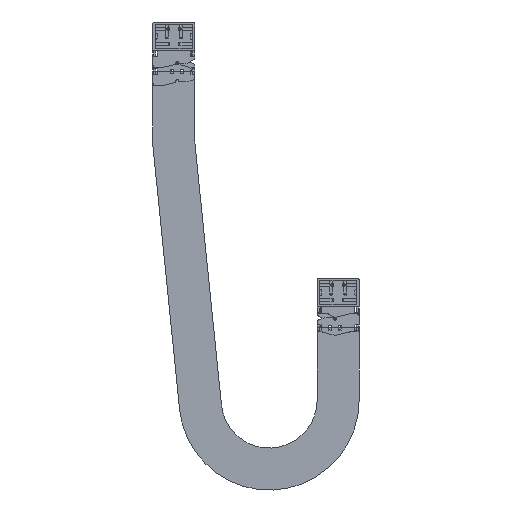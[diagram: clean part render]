
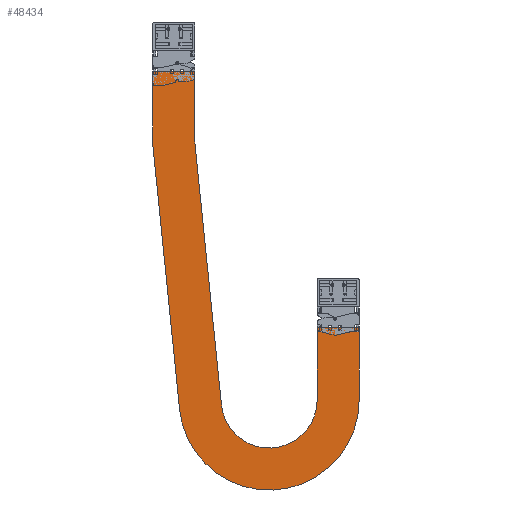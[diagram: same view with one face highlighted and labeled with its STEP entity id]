
A CAD part, left-side view. The second image highlights one B-rep face of the part: STEP entity #48434.
In plain terms, the highlighted planar face has unit normal (-1, 0, 0).
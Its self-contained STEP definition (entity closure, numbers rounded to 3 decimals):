
#47044=DIRECTION('',(0.,1.,0.));
#47045=VECTOR('',#47044,64.);
#47046=CARTESIAN_POINT('',(-35.,250.,0.));
#47047=LINE('',#47046,#47045);
#47257=DIRECTION('',(0.,-1.,0.));
#47258=VECTOR('',#47257,64.);
#47259=CARTESIAN_POINT('',(-35.,64.,-390.));
#47260=LINE('',#47259,#47258);
#47544=DIRECTION('',(0.,0.,-1.));
#47545=VECTOR('',#47544,111.868);
#47546=CARTESIAN_POINT('',(-35.,314.,0.));
#47547=LINE('',#47546,#47545);
#47551=DIRECTION('',(0.,0.,-1.));
#47552=VECTOR('',#47551,108.637);
#47553=CARTESIAN_POINT('',(-35.,250.,0.));
#47554=LINE('',#47553,#47552);
#47558=DIRECTION('',(0.,-0.101,-0.995));
#47559=VECTOR('',#47558,400.756);
#47560=CARTESIAN_POINT('',(-35.,250.,-108.637));
#47561=LINE('',#47560,#47559);
#47565=CARTESIAN_POINT('',(-35.,137.,-500.));
#47566=DIRECTION('',(-1.,0.,0.));
#47567=DIRECTION('',(0.,0.995,-0.101));
#47568=AXIS2_PLACEMENT_3D('',#47565,#47566,#47567);
#47573=DIRECTION('',(0.,0.,1.));
#47574=VECTOR('',#47573,110.);
#47575=CARTESIAN_POINT('',(-35.,64.,-500.));
#47576=LINE('',#47575,#47574);
#47587=DIRECTION('',(0.,0.,1.));
#47588=VECTOR('',#47587,110.);
#47589=CARTESIAN_POINT('',(-35.,0.,-500.));
#47590=LINE('',#47589,#47588);
#47601=CARTESIAN_POINT('',(-35.,137.,-500.));
#47602=DIRECTION('',(-1.,0.,0.));
#47603=DIRECTION('',(0.,0.995,-0.101));
#47604=AXIS2_PLACEMENT_3D('',#47601,#47602,#47603);
#47616=DIRECTION('',(0.,-0.101,-0.995));
#47617=VECTOR('',#47616,403.988);
#47618=CARTESIAN_POINT('',(-35.,314.,-111.868));
#47619=LINE('',#47618,#47617);
#47640=CARTESIAN_POINT('',(-35.,250.,0.));
#47642=VERTEX_POINT('',#47640);
#47643=CARTESIAN_POINT('',(-35.,314.,0.));
#47644=VERTEX_POINT('',#47643);
#47664=CARTESIAN_POINT('',(-35.,250.,-108.637));
#47666=VERTEX_POINT('',#47664);
#47667=CARTESIAN_POINT('',(-35.,314.,-111.868));
#47669=VERTEX_POINT('',#47667);
#47688=CARTESIAN_POINT('',(-35.,209.629,-507.354));
#47690=VERTEX_POINT('',#47688);
#47691=CARTESIAN_POINT('',(-35.,273.303,-513.801));
#47693=VERTEX_POINT('',#47691);
#47712=CARTESIAN_POINT('',(-35.,64.,-500.));
#47714=VERTEX_POINT('',#47712);
#47715=CARTESIAN_POINT('',(-35.,0.,-500.));
#47717=VERTEX_POINT('',#47715);
#47736=CARTESIAN_POINT('',(-35.,64.,-390.));
#47738=VERTEX_POINT('',#47736);
#47739=CARTESIAN_POINT('',(-35.,0.,-390.));
#47740=VERTEX_POINT('',#47739);
#48414=CARTESIAN_POINT('',(-35.,250.,0.));
#48415=DIRECTION('',(-1.,0.,0.));
#48416=DIRECTION('',(0.,1.,0.));
#48417=AXIS2_PLACEMENT_3D('',#48414,#48415,#48416);
#48418=PLANE('',#48417);
#48419=ORIENTED_EDGE('',*,*,#47750,.F.);
#48420=ORIENTED_EDGE('',*,*,#48352,.T.);
#48421=ORIENTED_EDGE('',*,*,#48331,.T.);
#48422=ORIENTED_EDGE('',*,*,#48309,.T.);
#48423=ORIENTED_EDGE('',*,*,#48287,.T.);
#48424=ORIENTED_EDGE('',*,*,#47965,.T.);
#48426=ORIENTED_EDGE('',*,*,#48425,.F.);
#48428=ORIENTED_EDGE('',*,*,#48427,.F.);
#48430=ORIENTED_EDGE('',*,*,#48429,.F.);
#48431=ORIENTED_EDGE('',*,*,#48399,.F.);
#48432=EDGE_LOOP('',(#48419,#48420,#48421,#48422,#48423,#48424,#48426,#48428,
#48430,#48431));
#48433=FACE_OUTER_BOUND('',#48432,.F.);
#47569=CIRCLE('',#47568,73.);
#47605=CIRCLE('',#47604,137.);
#47750=EDGE_CURVE('',#47642,#47644,#47047,.T.);
#47965=EDGE_CURVE('',#47738,#47740,#47260,.T.);
#48287=EDGE_CURVE('',#47714,#47738,#47576,.T.);
#48309=EDGE_CURVE('',#47690,#47714,#47569,.T.);
#48331=EDGE_CURVE('',#47666,#47690,#47561,.T.);
#48352=EDGE_CURVE('',#47642,#47666,#47554,.T.);
#48399=EDGE_CURVE('',#47644,#47669,#47547,.T.);
#48425=EDGE_CURVE('',#47717,#47740,#47590,.T.);
#48427=EDGE_CURVE('',#47693,#47717,#47605,.T.);
#48429=EDGE_CURVE('',#47669,#47693,#47619,.T.);
#48434=ADVANCED_FACE('',(#48433),#48418,.T.);
